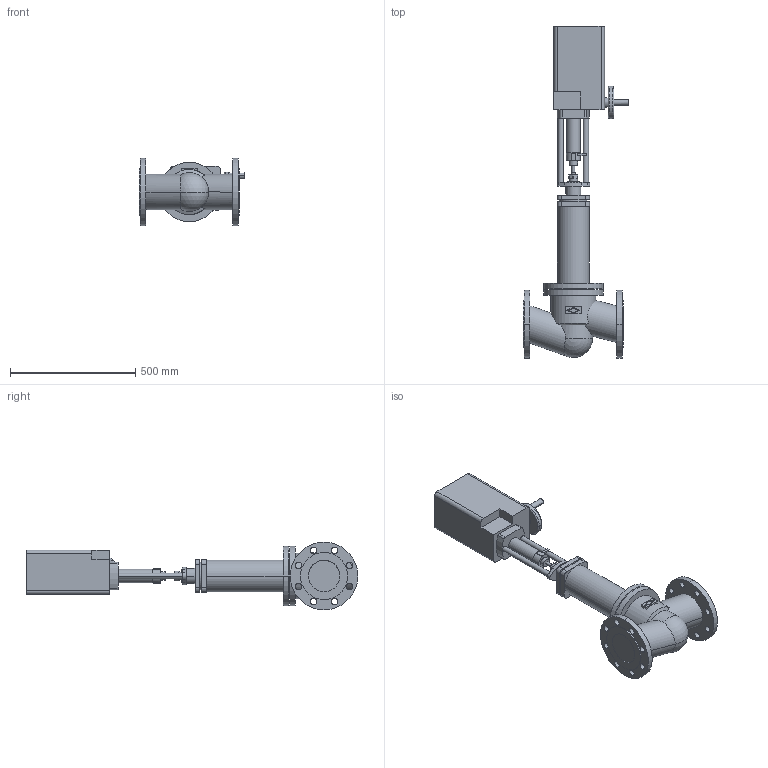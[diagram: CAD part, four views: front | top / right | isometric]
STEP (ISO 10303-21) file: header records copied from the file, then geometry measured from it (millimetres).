
FILE_DESCRIPTION(('CoCreate Modeling STEP Export'),'2;1');
FILE_NAME('c000004808.stp','2011-10-11T11:23:27',(''),(''),'CoCreate Modeling STEP processor for AP214 (Solid Model)','CoCreate Modeling 17.0 01-Apr-2010 (C) Parametric Technology GmbH','');
FILE_SCHEMA(('AUTOMOTIVE_DESIGN { 1 0 10303 214 1 1 1 1 }'));
Length unit declared in the file: millimetre
Products named in the file (2): 1; 2
Bounding box: 421.5 x 1322.7 x 270 mm (x, y, z)
Volume: 30502828.8 mm3; surface area: 1216505.7 mm2
Topology: 2 solids, 2 shells, 219 faces, 542 edges, 358 vertices
Faces by surface type: cylinder 116, plane 95, torus 4, sphere 2, cone 2
Entity records: 8069 total; most frequent: CARTESIAN_POINT 1292, ORIENTED_EDGE 1080, DIRECTION 950, EDGE_CURVE 540, VERTEX_POINT 358, AXIS2_PLACEMENT_3D 340, EDGE_LOOP 284, VECTOR 270
